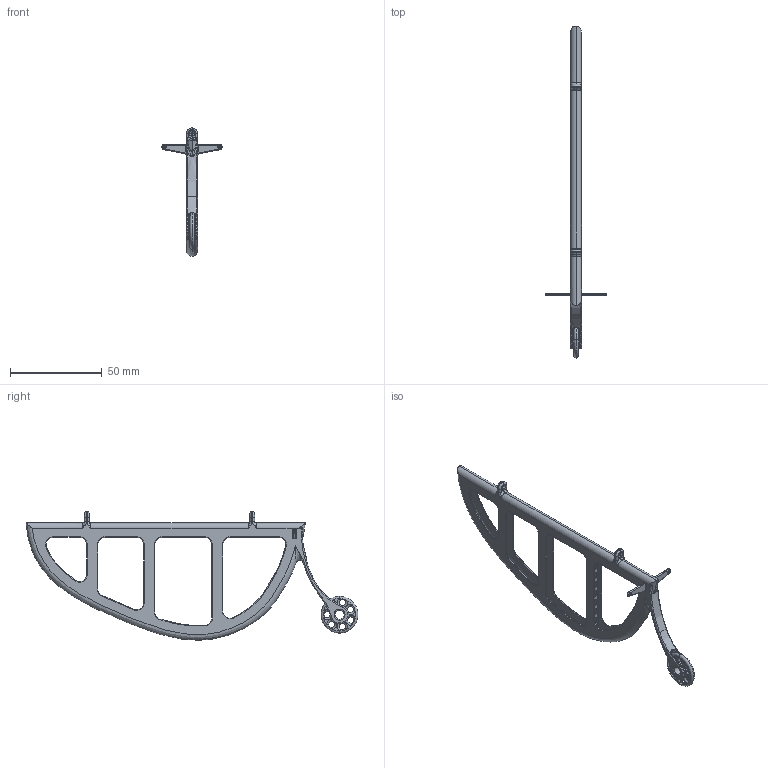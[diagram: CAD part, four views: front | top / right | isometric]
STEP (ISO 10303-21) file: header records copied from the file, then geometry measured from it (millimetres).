
FILE_DESCRIPTION (( 'STEP AP203' ), '1' );
FILE_NAME ('06-12-030-00.STEP', '2019-02-25T08:49:43', ( '' ), ( '' ), 'SwSTEP 2.0', 'SolidWorks 2014', '' );
FILE_SCHEMA (( 'CONFIG_CONTROL_DESIGN' ));
Length unit declared in the file: millimetre
Products named in the file (1): 06-12-030-00
Bounding box: 33 x 180.48 x 69.89 mm (x, y, z)
Volume: 7137.1 mm3; surface area: 18551.2 mm2
Topology: 2 solids, 2 shells, 502 faces, 1297 edges, 741 vertices
Faces by surface type: torus 179, cylinder 154, bspline 102, plane 65, sphere 2
Entity records: 21890 total; most frequent: CARTESIAN_POINT 9806, DIRECTION 2725, ORIENTED_EDGE 2554, EDGE_CURVE 1277, AXIS2_PLACEMENT_3D 1232, CIRCLE 831, VERTEX_POINT 741, EDGE_LOOP 528
